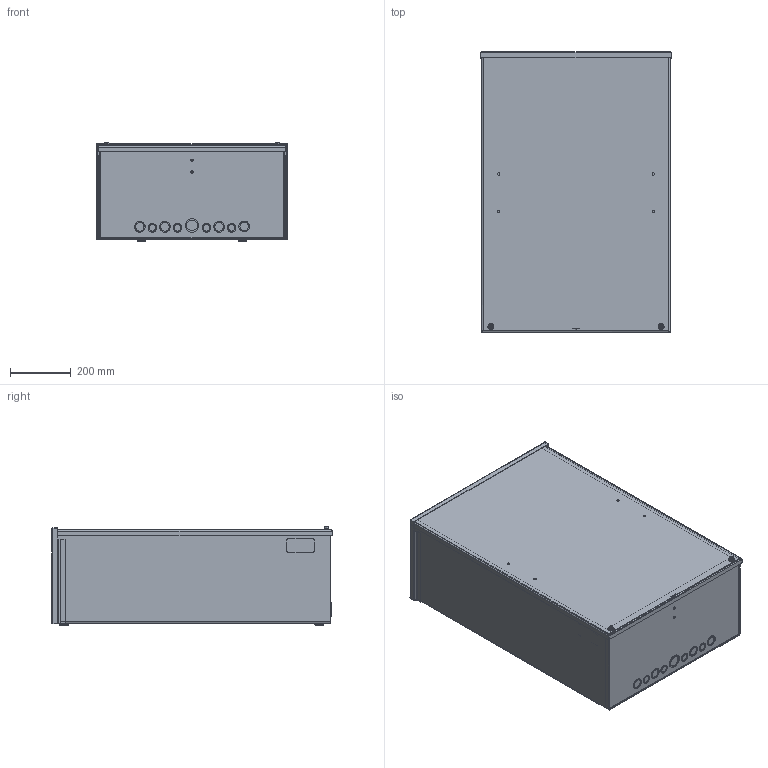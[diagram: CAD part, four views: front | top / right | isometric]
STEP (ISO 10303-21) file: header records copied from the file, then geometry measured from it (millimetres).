
FILE_DESCRIPTION (( 'STEP AP203' ), '1' );
FILE_NAME ('58232.STEP', '2022-10-07T17:37:46', ( '' ), ( '' ), 'SwSTEP 2.0', 'SolidWorks 2020', '' );
FILE_SCHEMA (( 'CONFIG_CONTROL_DESIGN' ));
Length unit declared in the file: inch
Products named in the file (22): 89221139_BODY 36 X 36 X 12  A60 GALV; 89060042; 78170101_78170101; 89060046; 22101001; 43439002; 89221144_WELDMENTBODY 24X24X12; 79210001_STAPLE,CT; 58232; 58110007; 43104001; 99401422_99401422; 22157003; 30170005; 87780048; 87788412; 78164005_OPEN; 89221146_WELDMENTBOTTOM 24X12; 79211001_HANDLE, PLTD; 89060045_89060045; 89221145_BOTTOM24X12 A60 GALV; 89221142_COVER 36 X 36  A60 GALV
Assembly tree (34 placements, depth 4):
  58232
    89221144_WELDMENTBODY 24X24X12
      89221139_BODY 36 X 36 X 12  A60 GALV
      43439002
      89221146_WELDMENTBOTTOM 24X12
        89221145_BOTTOM24X12 A60 GALV
        58110007  x2
        30170005  x2
    89221142_COVER 36 X 36  A60 GALV
    87780048
    22157003  x2
    22101001  x2
    43104001  x2
    78170101_78170101
      87788412
      79210001_STAPLE,CT
      79211001_HANDLE, PLTD  x2
        89060042
        30170005
      99401422_99401422  x6
      78164005_OPEN
        89060046
        89060045_89060045
Bounding box: 626.36 x 920.61 x 323.19 mm (x, y, z)
Volume: 5076207.6 mm3; surface area: 4685775 mm2
Topology: 32 solids, 32 shells, 1599 faces, 3748 edges, 2288 vertices
Faces by surface type: plane 502, cylinder 493, cone 346, bspline 186, torus 68, sphere 4
Entity records: 31777 total; most frequent: CARTESIAN_POINT 9860, DIRECTION 4082, ORIENTED_EDGE 3884, EDGE_CURVE 1942, AXIS2_PLACEMENT_3D 1534, VERTEX_POINT 1191, LINE 1014, VECTOR 1014
